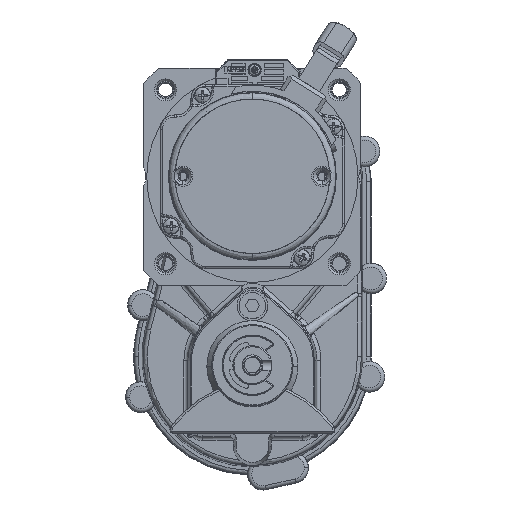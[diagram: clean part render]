
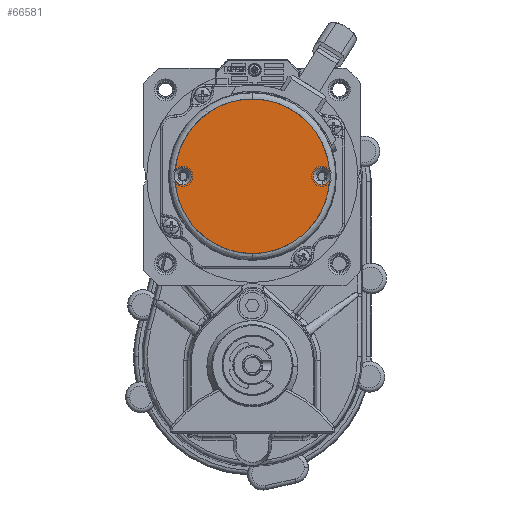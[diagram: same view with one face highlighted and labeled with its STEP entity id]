
A CAD part, top view. The second image highlights one B-rep face of the part: STEP entity #66581.
In plain terms, the highlighted planar face has unit normal (0, 0, 1).
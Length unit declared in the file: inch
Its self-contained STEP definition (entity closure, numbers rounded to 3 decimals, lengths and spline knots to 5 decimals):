
#28 = EDGE_CURVE ( 'NONE', #46130, #56028, #43602, .T. ) ;
#2121 = CIRCLE ( 'NONE', #51009, 0.16732 ) ;
#3975 = ORIENTED_EDGE ( 'NONE', *, *, #155413, .T. ) ;
#4368 = CIRCLE ( 'NONE', #131154, 0.16732 ) ;
#6245 = AXIS2_PLACEMENT_3D ( 'NONE', #14896, #120029, #30012 ) ;
#6401 = CARTESIAN_POINT ( 'NONE',  ( 1.53913, 0.21179, 5.68898 ) ) ;
#9054 = CARTESIAN_POINT ( 'NONE',  ( 0.05522, -1.35737, 5.68898 ) ) ;
#12128 = VERTEX_POINT ( 'NONE', #49933 ) ;
#12303 = CARTESIAN_POINT ( 'NONE',  ( 1.3938, 0.12885, 5.68898 ) ) ;
#14896 = CARTESIAN_POINT ( 'NONE',  ( 1.3938, 0.12885, 5.68898 ) ) ;
#20064 = DIRECTION ( 'NONE',  ( 0., 0., -1. ) ) ;
#23243 = AXIS2_PLACEMENT_3D ( 'NONE', #121509, #60968, #105691 ) ;
#23944 = CARTESIAN_POINT ( 'NONE',  ( -0.77732, 1.61507, 5.68898 ) ) ;
#26746 = VERTEX_POINT ( 'NONE', #158979 ) ;
#27395 = DIRECTION ( 'NONE',  ( 0., 1., 0. ) ) ;
#27517 = DIRECTION ( 'NONE',  ( 0., 0., 1. ) ) ;
#30012 = DIRECTION ( 'NONE',  ( 0., 1., 0. ) ) ;
#36810 = CIRCLE ( 'NONE', #112851, 0.16732 ) ;
#41975 = PLANE ( 'NONE',  #123664 ) ;
#43602 = CIRCLE ( 'NONE', #23243, 0.16732 ) ;
#44282 = CARTESIAN_POINT ( 'NONE',  ( 0.05522, -1.35737, 5.68898 ) ) ;
#46130 = VERTEX_POINT ( 'NONE', #56764 ) ;
#48223 = CARTESIAN_POINT ( 'NONE',  ( 1.3938, -0.03847, 5.68898 ) ) ;
#49933 = CARTESIAN_POINT ( 'NONE',  ( 1.53913, 0.21179, 5.68898 ) ) ;
#50454 =( BOUNDED_CURVE ( )  B_SPLINE_CURVE ( 3, ( #171407, #81289, #96431, #6401 ),
 .UNSPECIFIED., .F., .F. ) 
 B_SPLINE_CURVE_WITH_KNOTS ( ( 4, 4 ),
 ( 0.5, 1. ),
 .UNSPECIFIED. ) 
 CURVE ( )  GEOMETRIC_REPRESENTATION_ITEM ( )  RATIONAL_B_SPLINE_CURVE ( ( 1., 0.818, 0.818, 1. ) ) 
 REPRESENTATION_ITEM ( '' )  );
#51009 = AXIS2_PLACEMENT_3D ( 'NONE', #80463, #185720, #95660 ) ;
#55372 = EDGE_CURVE ( 'NONE', #94766, #12128, #50454, .T. ) ;
#56028 = VERTEX_POINT ( 'NONE', #190419 ) ;
#56764 = CARTESIAN_POINT ( 'NONE',  ( -1.28336, -0.03847, 5.68898 ) ) ;
#57370 = ORIENTED_EDGE ( 'NONE', *, *, #142952, .F. ) ;
#58836 = EDGE_LOOP ( 'NONE', ( #116900, #80441, #64283, #57370, #171795, #3975, #189409, #156061, #132505, #138351 ) ) ;
#60968 = DIRECTION ( 'NONE',  ( 0., 0., -1. ) ) ;
#64182 = DIRECTION ( 'NONE',  ( 0., 0., -1. ) ) ;
#64283 = ORIENTED_EDGE ( 'NONE', *, *, #28, .T. ) ;
#66581 = ADVANCED_FACE ( 'NONE', ( #150249 ), #41975, .T. ) ;
#73497 = VERTEX_POINT ( 'NONE', #48223 ) ;
#74880 = VERTEX_POINT ( 'NONE', #170417 ) ;
#80441 = ORIENTED_EDGE ( 'NONE', *, *, #100331, .T. ) ;
#80463 = CARTESIAN_POINT ( 'NONE',  ( -1.28336, 0.12885, 5.68898 ) ) ;
#81289 = CARTESIAN_POINT ( 'NONE',  ( 0.88777, 1.61507, 5.68898 ) ) ;
#82097 = AXIS2_PLACEMENT_3D ( 'NONE', #154302, #64182, #169443 ) ;
#83443 = EDGE_CURVE ( 'NONE', #165419, #94766, #185108, .T. ) ;
#83732 = CARTESIAN_POINT ( 'NONE',  ( -1.38222, 1.04303, 5.68898 ) ) ;
#94675 = VERTEX_POINT ( 'NONE', #158394 ) ;
#94766 = VERTEX_POINT ( 'NONE', #130057 ) ;
#95660 = DIRECTION ( 'NONE',  ( 0., 1., 0. ) ) ;
#96431 = CARTESIAN_POINT ( 'NONE',  ( 1.49267, 1.04303, 5.68898 ) ) ;
#99690 = CARTESIAN_POINT ( 'NONE',  ( -1.42868, 0.04591, 5.68898 ) ) ;
#100331 = EDGE_CURVE ( 'NONE', #175056, #46130, #36810, .T. ) ;
#105691 = DIRECTION ( 'NONE',  ( 0., 1., 0. ) ) ;
#105896 = CIRCLE ( 'NONE', #6245, 0.16732 ) ;
#110035 = CARTESIAN_POINT ( 'NONE',  ( -1.28336, 0.12885, 5.68898 ) ) ;
#112251 =( BOUNDED_CURVE ( )  B_SPLINE_CURVE ( 3, ( #194219, #119204, #134255, #44282 ),
 .UNSPECIFIED., .F., .F. ) 
 B_SPLINE_CURVE_WITH_KNOTS ( ( 4, 4 ),
 ( 0., 0.5 ),
 .UNSPECIFIED. ) 
 CURVE ( )  GEOMETRIC_REPRESENTATION_ITEM ( )  RATIONAL_B_SPLINE_CURVE ( ( 1., 0.818, 0.818, 1. ) ) 
 REPRESENTATION_ITEM ( '' )  );
#112851 = AXIS2_PLACEMENT_3D ( 'NONE', #110035, #20064, #125163 ) ;
#116900 = ORIENTED_EDGE ( 'NONE', *, *, #186410, .T. ) ;
#117427 = DIRECTION ( 'NONE',  ( 0., 0., -1. ) ) ;
#117548 = CARTESIAN_POINT ( 'NONE',  ( 0.79833, 0.12885, 5.68898 ) ) ;
#119204 = CARTESIAN_POINT ( 'NONE',  ( 1.49267, -0.78533, 5.68898 ) ) ;
#120029 = DIRECTION ( 'NONE',  ( 0., 0., -1. ) ) ;
#121509 = CARTESIAN_POINT ( 'NONE',  ( -1.28336, 0.12885, 5.68898 ) ) ;
#123664 = AXIS2_PLACEMENT_3D ( 'NONE', #117548, #27517, #132621 ) ;
#125163 = DIRECTION ( 'NONE',  ( 0., 1., 0. ) ) ;
#129083 = CARTESIAN_POINT ( 'NONE',  ( 0.05522, 1.61507, 5.68898 ) ) ;
#130057 = CARTESIAN_POINT ( 'NONE',  ( 0.05522, 1.61507, 5.68898 ) ) ;
#131154 = AXIS2_PLACEMENT_3D ( 'NONE', #12303, #117427, #27395 ) ;
#132505 = ORIENTED_EDGE ( 'NONE', *, *, #55372, .F. ) ;
#132621 = DIRECTION ( 'NONE',  ( 0., -1., 0. ) ) ;
#134255 = CARTESIAN_POINT ( 'NONE',  ( 0.88777, -1.35737, 5.68898 ) ) ;
#135318 = CIRCLE ( 'NONE', #82097, 0.16732 ) ;
#138351 = ORIENTED_EDGE ( 'NONE', *, *, #83443, .F. ) ;
#142952 = EDGE_CURVE ( 'NONE', #26746, #56028, #175790, .T. ) ;
#145680 = EDGE_CURVE ( 'NONE', #73497, #74880, #135318, .T. ) ;
#150249 = FACE_OUTER_BOUND ( 'NONE', #58836, .T. ) ;
#151032 = EDGE_CURVE ( 'NONE', #74880, #12128, #4368, .T. ) ;
#154302 = CARTESIAN_POINT ( 'NONE',  ( 1.3938, 0.12885, 5.68898 ) ) ;
#155413 = EDGE_CURVE ( 'NONE', #94675, #73497, #105896, .T. ) ;
#156061 = ORIENTED_EDGE ( 'NONE', *, *, #151032, .T. ) ;
#156584 = CARTESIAN_POINT ( 'NONE',  ( -1.42868, 0.21179, 5.68898 ) ) ;
#158394 = CARTESIAN_POINT ( 'NONE',  ( 1.53913, 0.04591, 5.68898 ) ) ;
#158979 = CARTESIAN_POINT ( 'NONE',  ( 0.05522, -1.35737, 5.68898 ) ) ;
#165419 = VERTEX_POINT ( 'NONE', #156584 ) ;
#166707 = EDGE_CURVE ( 'NONE', #94675, #26746, #112251, .T. ) ;
#169443 = DIRECTION ( 'NONE',  ( 0., 1., 0. ) ) ;
#170417 = CARTESIAN_POINT ( 'NONE',  ( 1.3938, 0.29617, 5.68898 ) ) ;
#171407 = CARTESIAN_POINT ( 'NONE',  ( 0.05522, 1.61507, 5.68898 ) ) ;
#171742 = CARTESIAN_POINT ( 'NONE',  ( -1.28336, 0.29617, 5.68898 ) ) ;
#171795 = ORIENTED_EDGE ( 'NONE', *, *, #166707, .F. ) ;
#174649 = CARTESIAN_POINT ( 'NONE',  ( -0.77732, -1.35737, 5.68898 ) ) ;
#175056 = VERTEX_POINT ( 'NONE', #171742 ) ;
#175790 =( BOUNDED_CURVE ( )  B_SPLINE_CURVE ( 3, ( #9054, #174649, #189813, #99690 ),
 .UNSPECIFIED., .F., .F. ) 
 B_SPLINE_CURVE_WITH_KNOTS ( ( 4, 4 ),
 ( 0.5, 1. ),
 .UNSPECIFIED. ) 
 CURVE ( )  GEOMETRIC_REPRESENTATION_ITEM ( )  RATIONAL_B_SPLINE_CURVE ( ( 1., 0.818, 0.818, 1. ) ) 
 REPRESENTATION_ITEM ( '' )  );
#185108 =( BOUNDED_CURVE ( )  B_SPLINE_CURVE ( 3, ( #188949, #83732, #23944, #129083 ),
 .UNSPECIFIED., .F., .F. ) 
 B_SPLINE_CURVE_WITH_KNOTS ( ( 4, 4 ),
 ( 0., 0.5 ),
 .UNSPECIFIED. ) 
 CURVE ( )  GEOMETRIC_REPRESENTATION_ITEM ( )  RATIONAL_B_SPLINE_CURVE ( ( 1., 0.818, 0.818, 1. ) ) 
 REPRESENTATION_ITEM ( '' )  );
#185720 = DIRECTION ( 'NONE',  ( 0., 0., -1. ) ) ;
#186410 = EDGE_CURVE ( 'NONE', #165419, #175056, #2121, .T. ) ;
#188949 = CARTESIAN_POINT ( 'NONE',  ( -1.42868, 0.21179, 5.68898 ) ) ;
#189409 = ORIENTED_EDGE ( 'NONE', *, *, #145680, .T. ) ;
#189813 = CARTESIAN_POINT ( 'NONE',  ( -1.38222, -0.78533, 5.68898 ) ) ;
#190419 = CARTESIAN_POINT ( 'NONE',  ( -1.42868, 0.04591, 5.68898 ) ) ;
#194219 = CARTESIAN_POINT ( 'NONE',  ( 1.53913, 0.04591, 5.68898 ) ) ;
